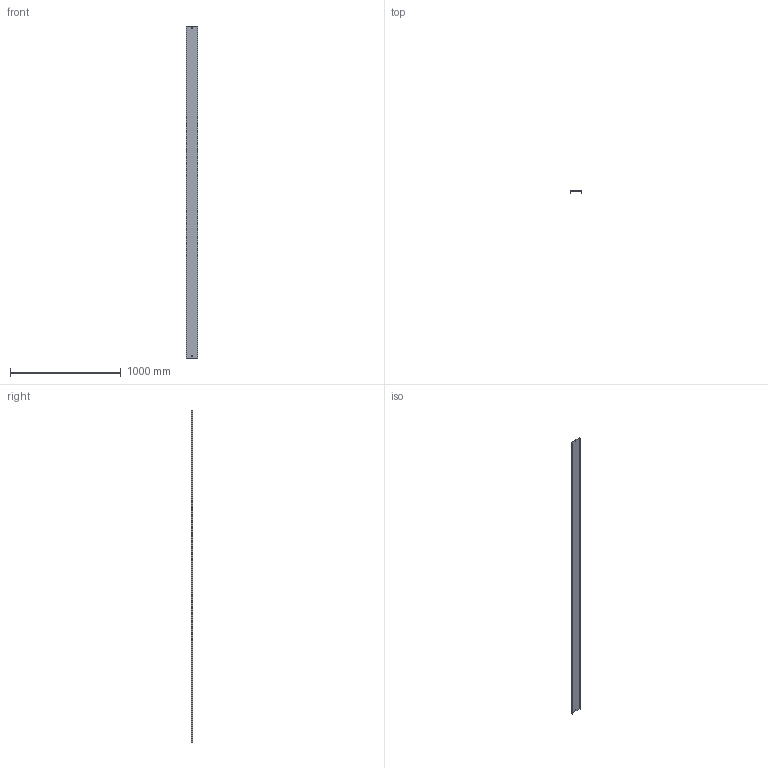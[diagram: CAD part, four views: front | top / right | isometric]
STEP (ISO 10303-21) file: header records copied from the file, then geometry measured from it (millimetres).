
FILE_DESCRIPTION (( 'STEP AP214' ), '1' );
FILE_NAME ('OCF_100.step', '2025-07-16T09:09:44', ( '' ), ( '' ), 'SwSTEP 2.0', 'SolidWorks 2023', '' );
FILE_SCHEMA (( 'AUTOMOTIVE_DESIGN' ));
Length unit declared in the file: millimetre
Products named in the file (1): OCF_100
Bounding box: 102 x 17 x 3000 mm (x, y, z)
Volume: 401916 mm3; surface area: 810152 mm2
Topology: 1 solids, 1 shells, 18 faces, 48 edges, 32 vertices
Faces by surface type: plane 18
Entity records: 583 total; most frequent: CARTESIAN_POINT 99, ORIENTED_EDGE 96, DIRECTION 86, EDGE_CURVE 48, VECTOR 48, LINE 48, VERTEX_POINT 32, EDGE_LOOP 22
